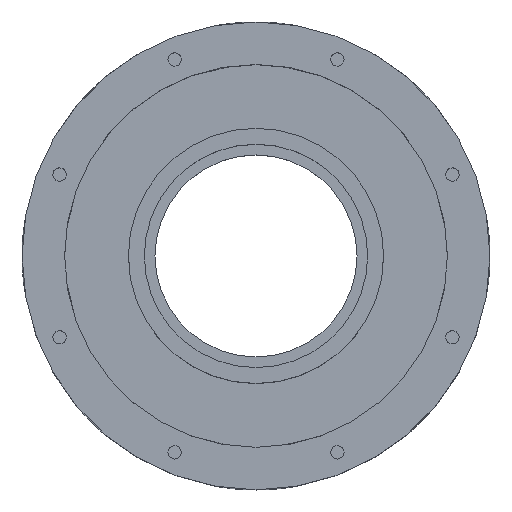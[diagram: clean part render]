
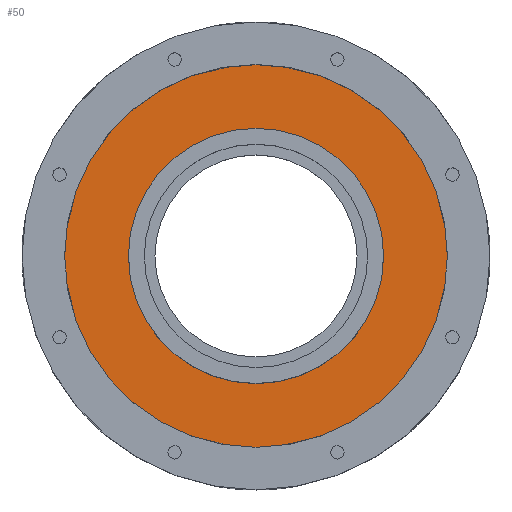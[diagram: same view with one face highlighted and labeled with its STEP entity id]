
A CAD part, top view. The second image highlights one B-rep face of the part: STEP entity #50.
In plain terms, the highlighted planar face has unit normal (0, 0, 1).
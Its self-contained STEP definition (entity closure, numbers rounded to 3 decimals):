
#22 = VERTEX_POINT('',#23);
#23 = CARTESIAN_POINT('',(68.002,44.,3.));
#39 = EDGE_CURVE('',#22,#22,#40,.T.);
#40 = CIRCLE('',#41,24.);
#41 = AXIS2_PLACEMENT_3D('',#42,#43,#44);
#42 = CARTESIAN_POINT('',(44.002,44.,3.));
#43 = DIRECTION('',(0.,0.,1.));
#44 = DIRECTION('',(1.,0.,0.));
#50 = ADVANCED_FACE('',(#51,#62),#65,.T.);
#51 = FACE_BOUND('',#52,.T.);
#52 = EDGE_LOOP('',(#53));
#53 = ORIENTED_EDGE('',*,*,#54,.T.);
#54 = EDGE_CURVE('',#55,#55,#57,.T.);
#55 = VERTEX_POINT('',#56);
#56 = CARTESIAN_POINT('',(80.002,44.,3.));
#57 = CIRCLE('',#58,36.);
#58 = AXIS2_PLACEMENT_3D('',#59,#60,#61);
#59 = CARTESIAN_POINT('',(44.002,44.,3.));
#60 = DIRECTION('',(0.,0.,1.));
#61 = DIRECTION('',(1.,0.,0.));
#62 = FACE_BOUND('',#63,.T.);
#63 = EDGE_LOOP('',(#64));
#64 = ORIENTED_EDGE('',*,*,#39,.F.);
#65 = PLANE('',#66);
#66 = AXIS2_PLACEMENT_3D('',#67,#68,#69);
#67 = CARTESIAN_POINT('',(44.002,44.,3.));
#68 = DIRECTION('',(0.,0.,1.));
#69 = DIRECTION('',(1.,0.,0.));
